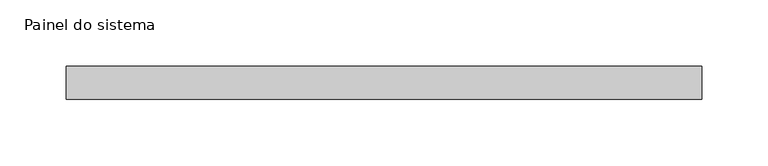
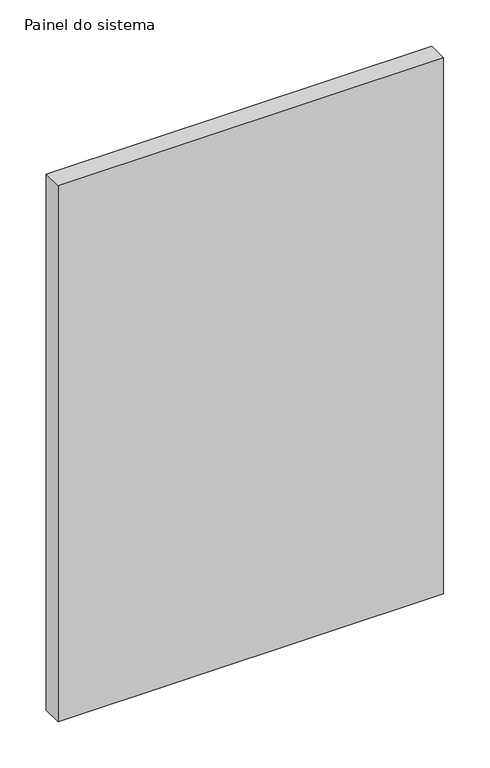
"""IFC4 building model written with IfcOpenShell, lengths in millimetres: plate geometry, Painel do sistema : Envidraçado."""

from ifc_helpers import new_model, si_unit, origin, origin_with_axes, place, context, project, spatial, polyline, outline, extrude, source, transform, mapped, element, save


def painel_do_sistema_7d80d8e9(model_context):
    return source(origin(), model_context, "Body", "SweptSolid", [
        extrude(outline(polyline([(240.0, -49.5), (-240.0, -49.5), (-240.0, -24.5), (240.0, -24.5), (240.0, -49.5)])), origin_with_axes(), (0.0, 0.0, 1.0), 705.0),
    ])


if __name__ == "__main__":
    model = new_model("IFC4")
    model_context = context("Model", 3, world=origin())
    ifc_project = project(units=[si_unit("LENGTHUNIT", "METRE", prefix="MILLI")], contexts=[model_context])
    site = spatial("IfcSite", under=ifc_project)
    building = spatial("IfcBuilding", under=site)
    placement = place(None, origin())
    painel_do_sistema_shape = painel_do_sistema_7d80d8e9(model_context)
    element("IfcPlate", 1, ObjectType="Painel do sistema : Envidraçado", at=placement, inside=building, context=model_context, shape_type="MappedRepresentation", body=[
        mapped(painel_do_sistema_shape, transform((0.0, 0.0, 0.0), x_axis=(1.0, 0.0, 0.0), y_axis=(0.0, 1.0, 0.0), z_axis=(0.0, 0.0, 1.0))),
    ])
    save(model, "model.ifc")
